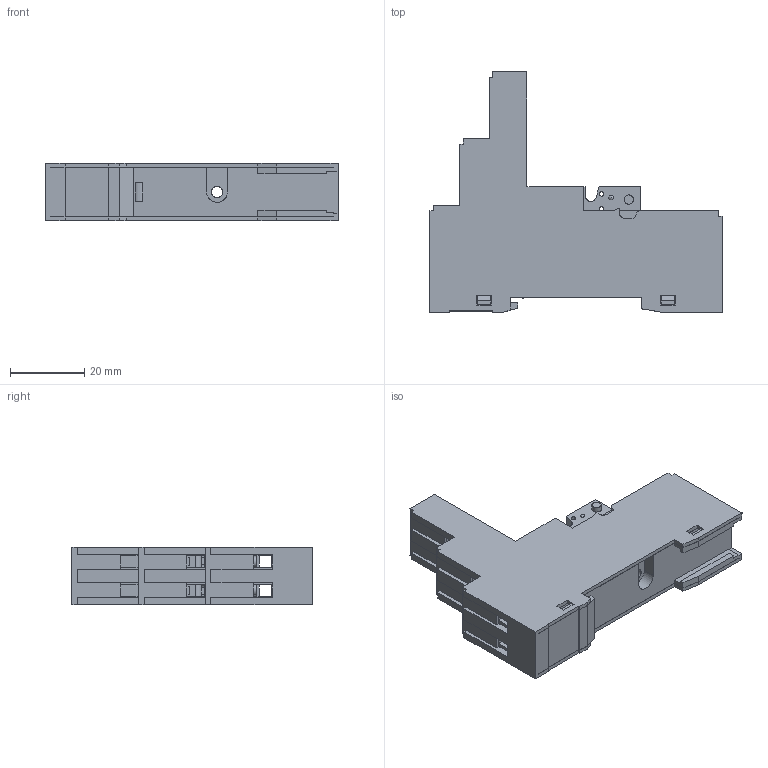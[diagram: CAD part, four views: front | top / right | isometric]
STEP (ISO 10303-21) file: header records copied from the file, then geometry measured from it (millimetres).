
FILE_DESCRIPTION(('STEP AP214'),'2;1');
FILE_NAME('9595.stp','2010-01-14T15:03:33',(''),(''),'2007.1.106','THINKDESIGN','');
FILE_SCHEMA(('AUTOMOTIVE_DESIGN'));
Length unit declared in the file: millimetre
Products named in the file (1): None
Bounding box: 78.78 x 64.8 x 15.5 mm (x, y, z)
Surface area: 16281.7 mm2 (no closed solid volume)
Topology: 0 solids, 0 shells, 485 faces, 2727 edges, 2689 vertices
Faces by surface type: plane 417, cylinder 46, bspline 22
Full cylindrical faces by diameter (mm): 1.2 x4, 2.3 x8, 2.5 x2, 3 x8, 3.1 x1, 3.6 x1, 5.3 x8, 6 x1
Entity records: 28879 total; most frequent: CARTESIAN_POINT 8924, DIRECTION 3470, COMPOSITE_CURVE_SEGMENT 2725, TRIMMED_CURVE 2393, VECTOR 2344, LINE 2344, AXIS2_PLACEMENT_3D 563, OUTER_BOUNDARY_CURVE 485
